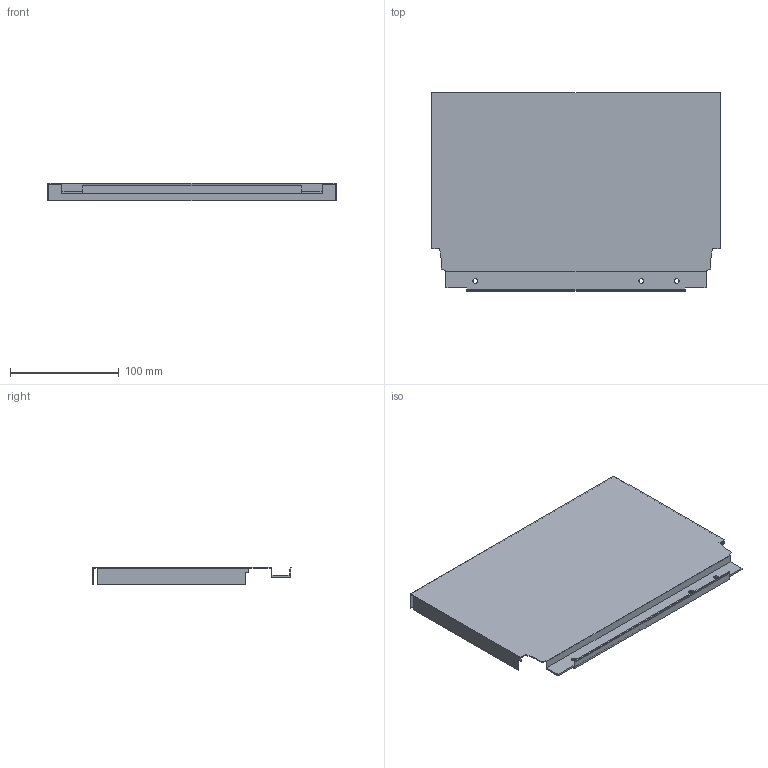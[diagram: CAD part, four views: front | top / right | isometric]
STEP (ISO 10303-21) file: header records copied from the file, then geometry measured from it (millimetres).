
FILE_DESCRIPTION (( 'STEP AP214' ), '1' );
FILE_NAME ('_DWD_XP Stahlrückwand_H182_KAB350_S17.step', '2010-07-08T12:57:41', ( 'grass' ), ( '' ), 'SwSTEP 2.0', 'SolidWorks 2010', '' );
FILE_SCHEMA (( 'AUTOMOTIVE_DESIGN' ));
Length unit declared in the file: millimetre
Products named in the file (1): _DWD_XP Stahlrückwand_H182_KAB350_S17
Bounding box: 265 x 182.49 x 16 mm (x, y, z)
Volume: 50717.4 mm3; surface area: 118711.1 mm2
Topology: 1 solids, 1 shells, 46 faces, 132 edges, 88 vertices
Faces by surface type: plane 40, cylinder 6
Entity records: 1534 total; most frequent: CARTESIAN_POINT 267, ORIENTED_EDGE 264, DIRECTION 238, EDGE_CURVE 132, LINE 120, VECTOR 120, VERTEX_POINT 88, AXIS2_PLACEMENT_3D 59
